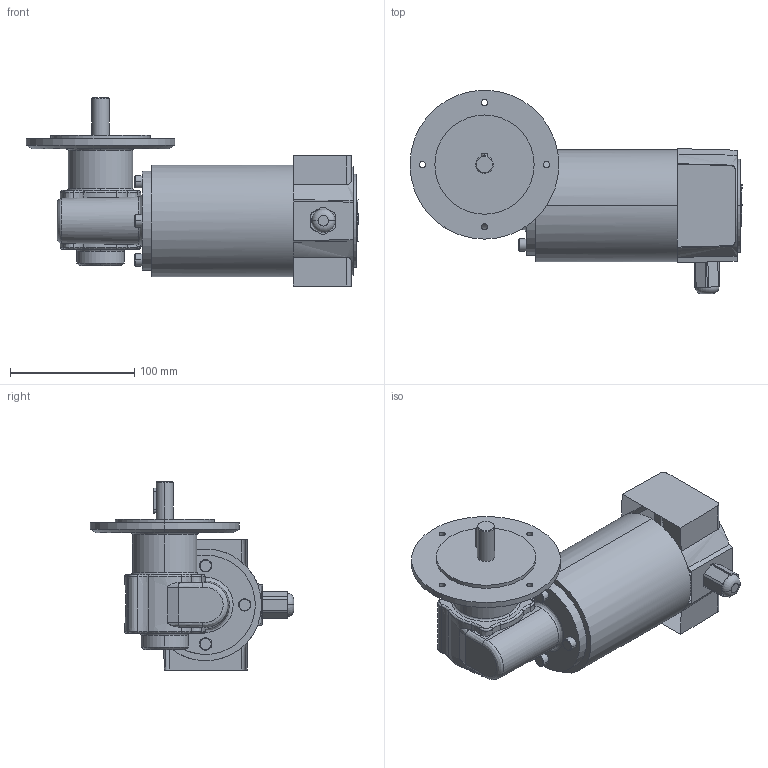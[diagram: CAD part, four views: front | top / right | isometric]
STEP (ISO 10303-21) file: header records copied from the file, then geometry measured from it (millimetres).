
FILE_DESCRIPTION(('OneSpaceDesigner STEP Export'),'2;1');
FILE_NAME('EPG21_GF130-10.stp','2008-07-10T 7:27:42',(''),(''),'OneSpace Designer STEP processor (Jan. 2003) for AP214(CD)(Solid Model)','OneSpace Designer 12.01D 09-Jul-2004 (C) CoCreate Software GmbH','');
FILE_SCHEMA(('AUTOMOTIVE_DESIGN_CC2 {1 2 10303 214 -1 1 5 1}'));
Length unit declared in the file: millimetre
Products named in the file (2): EPG21_GF130-10
Assembly tree (1 placements, depth 2):
  EPG21_GF130-10
    EPG21_GF130-10
Bounding box: 267.5 x 163.99 x 151.5 mm (x, y, z)
Volume: 1584740.5 mm3; surface area: 117496.4 mm2
Topology: 1 solids, 1 shells, 187 faces, 477 edges, 307 vertices
Faces by surface type: plane 51, cylinder 50, bspline 41, extrusion 25, cone 12, torus 8
Entity records: 16182 total; most frequent: CARTESIAN_POINT 12374, ORIENTED_EDGE 954, DIRECTION 492, EDGE_CURVE 477, VERTEX_POINT 307, EDGE_LOOP 210, FACE_OUTER_BOUND 187, ADVANCED_FACE 187
